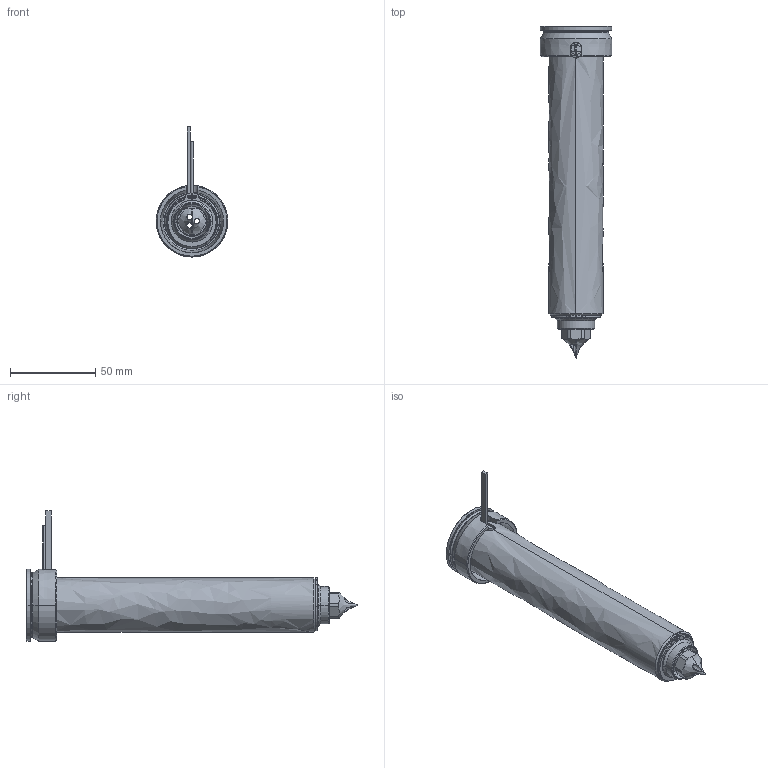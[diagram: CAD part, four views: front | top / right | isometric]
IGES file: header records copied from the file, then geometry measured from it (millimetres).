
Start section: SolidWorks IGES file using analytic representation for surfaces
Global section: file name: C:\Users\luca.EMPAD\Desktop\TEM\UGDL3615-M-A-1 [Øf=0.3 ØC=10].IGS; native system: SolidWorks 2012; preprocessor: SolidWorks 2012; author: luca; date: 120330.160438; units: millimetre
Bounding box: 42 x 194.8 x 76.3 mm (x, y, z)
Surface area: 61944.2 mm2 (no closed solid volume)
Topology: 0 solids, 0 shells, 123 faces, 2236 edges, 2236 vertices
Faces by surface type: revolution 79, bspline 44
